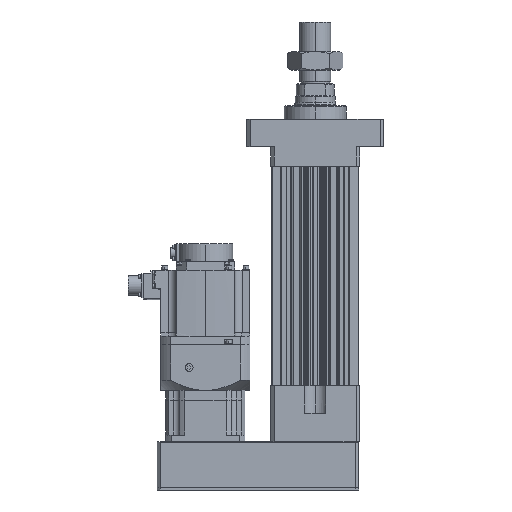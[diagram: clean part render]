
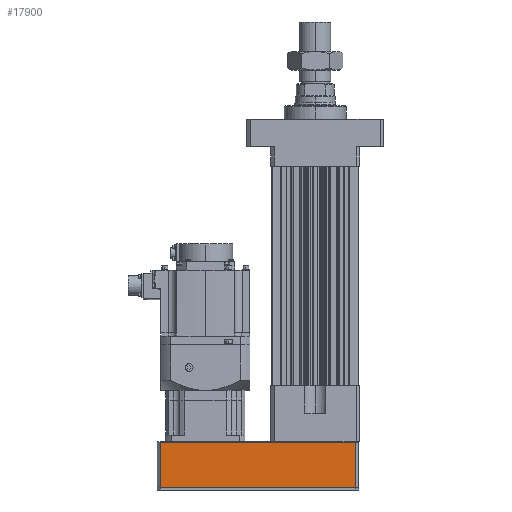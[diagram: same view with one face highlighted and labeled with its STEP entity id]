
A CAD part, left-side view. The second image highlights one B-rep face of the part: STEP entity #17900.
In plain terms, the highlighted planar face has unit normal (-1, 0, 0).
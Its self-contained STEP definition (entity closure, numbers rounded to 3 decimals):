
#961 = DIRECTION ( 'NONE',  ( 0., 0., 1. ) ) ;
#1741 = DIRECTION ( 'NONE',  ( 1., 0., 0. ) ) ;
#1922 = LINE ( 'NONE', #32931, #13555 ) ;
#2151 = VERTEX_POINT ( 'NONE', #21050 ) ;
#2430 = EDGE_CURVE ( 'NONE', #22650, #21090, #23327, .T. ) ;
#2594 = EDGE_LOOP ( 'NONE', ( #17596, #6554, #24162, #19558 ) ) ;
#6271 = LINE ( 'NONE', #9330, #23339 ) ;
#6554 = ORIENTED_EDGE ( 'NONE', *, *, #28758, .T. ) ;
#9330 = CARTESIAN_POINT ( 'NONE',  ( -63.5, 226., -82.5 ) ) ;
#9421 = FACE_OUTER_BOUND ( 'NONE', #2594, .T. ) ;
#9498 = EDGE_CURVE ( 'NONE', #2151, #30917, #1922, .T. ) ;
#11656 = CARTESIAN_POINT ( 'NONE',  ( -63.5, -59., -149. ) ) ;
#13259 = AXIS2_PLACEMENT_3D ( 'NONE', #30797, #1741, #23157 ) ;
#13555 = VECTOR ( 'NONE', #961, 1000. ) ;
#15594 = DIRECTION ( 'NONE',  ( 0., 1., 0. ) ) ;
#15806 = DIRECTION ( 'NONE',  ( 0., -1., 0. ) ) ;
#16231 = VECTOR ( 'NONE', #19421, 1000. ) ;
#16331 = CARTESIAN_POINT ( 'NONE',  ( -63.5, -59., -82.5 ) ) ;
#17596 = ORIENTED_EDGE ( 'NONE', *, *, #9498, .F. ) ;
#17900 = ADVANCED_FACE ( 'NONE', ( #9421 ), #22924, .F. ) ;
#18046 = VECTOR ( 'NONE', #15806, 1000. ) ;
#18499 = CARTESIAN_POINT ( 'NONE',  ( -63.5, -59., -148.5 ) ) ;
#19421 = DIRECTION ( 'NONE',  ( 0., 0., 1. ) ) ;
#19558 = ORIENTED_EDGE ( 'NONE', *, *, #21801, .T. ) ;
#20535 = LINE ( 'NONE', #18499, #18046 ) ;
#21050 = CARTESIAN_POINT ( 'NONE',  ( -63.5, 226., -148.5 ) ) ;
#21090 = VERTEX_POINT ( 'NONE', #16331 ) ;
#21801 = EDGE_CURVE ( 'NONE', #21090, #30917, #6271, .T. ) ;
#22650 = VERTEX_POINT ( 'NONE', #24638 ) ;
#22924 = PLANE ( 'NONE',  #13259 ) ;
#23157 = DIRECTION ( 'NONE',  ( 0., 0., -1. ) ) ;
#23327 = LINE ( 'NONE', #11656, #16231 ) ;
#23339 = VECTOR ( 'NONE', #15594, 1000. ) ;
#24162 = ORIENTED_EDGE ( 'NONE', *, *, #2430, .T. ) ;
#24638 = CARTESIAN_POINT ( 'NONE',  ( -63.5, -59., -148.5 ) ) ;
#28758 = EDGE_CURVE ( 'NONE', #2151, #22650, #20535, .T. ) ;
#30209 = CARTESIAN_POINT ( 'NONE',  ( -63.5, 226., -82.5 ) ) ;
#30797 = CARTESIAN_POINT ( 'NONE',  ( -63.5, -59., -149. ) ) ;
#30917 = VERTEX_POINT ( 'NONE', #30209 ) ;
#32931 = CARTESIAN_POINT ( 'NONE',  ( -63.5, 226., -149. ) ) ;
